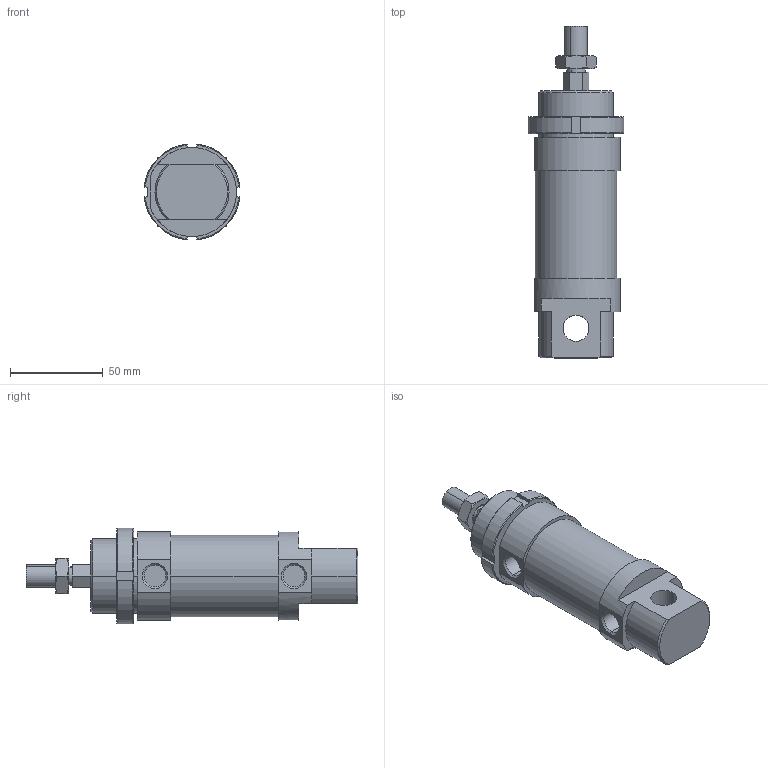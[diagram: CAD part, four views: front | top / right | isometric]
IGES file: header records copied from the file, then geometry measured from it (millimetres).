
Global section: file name: No Iges File Name specified; native system: AutoDesk Inventor R6.0; preprocessor: AutoDesk Inventor Iges Exporter R6.0; author: No Author specified; organization: No Organization specified; date: 20030405.074356; units: millimetre
Bounding box: 51.76 x 179 x 51.76 mm (x, y, z)
Volume: 213842.7 mm3; surface area: 37306.3 mm2
Topology: 4 solids, 4 shells, 126 faces, 298 edges, 188 vertices
Faces by surface type: plane 52, cone 30, cylinder 20, bspline 20, revolution 4
